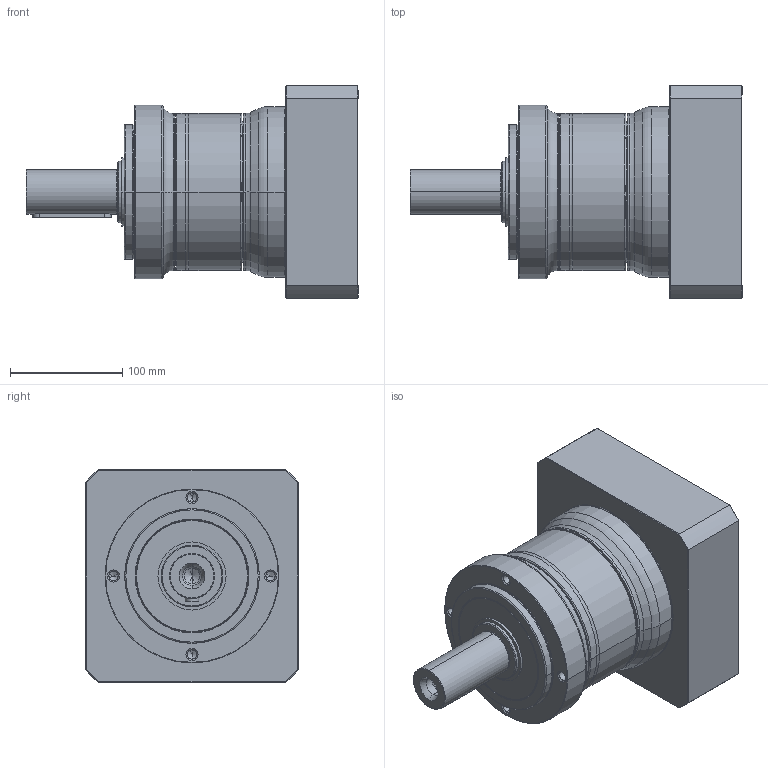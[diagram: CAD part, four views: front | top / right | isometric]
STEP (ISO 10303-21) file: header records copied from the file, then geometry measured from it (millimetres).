
FILE_DESCRIPTION((''),'2;1');
FILE_NAME('PE2-155_1ST_42-P0411A00101_ASM','2017-05-31T',('d01943'),(''),'PRO/ENGINEER BY PARAMETRIC TECHNOLOGY CORPORATION, 2008410','PRO/ENGINEER BY PARAMETRIC TECHNOLOGY CORPORATION, 2008410','');
FILE_SCHEMA(('CONFIG_CONTROL_DESIGN'));
Length unit declared in the file: millimetre
Products named in the file (9): P1323510001; P0250500001; P1324500601; P0350501001; P0941506001; P0503A00012; P0411A00101; P1702700001; PE2-155_1ST_42-P0411A00101_ASM
Assembly tree (8 placements, depth 2):
  PE2-155_1ST_42-P0411A00101_ASM
    P1323510001
    P0250500001
    P1324500601
    P0350501001
    P0941506001
    P0503A00012
    P0411A00101
    P1702700001
Bounding box: 296 x 190 x 190 mm (x, y, z)
Volume: 3524887.2 mm3; surface area: 428849 mm2
Topology: 8 solids, 8 shells, 465 faces, 1019 edges, 584 vertices
Faces by surface type: cone 138, cylinder 136, torus 98, plane 77, bspline 16
Entity records: 17386 total; most frequent: CARTESIAN_POINT 6958, DIRECTION 2377, ORIENTED_EDGE 1974, AXIS2_PLACEMENT_3D 1021, EDGE_CURVE 987, VERTEX_POINT 584, CIRCLE 555, EDGE_LOOP 527
